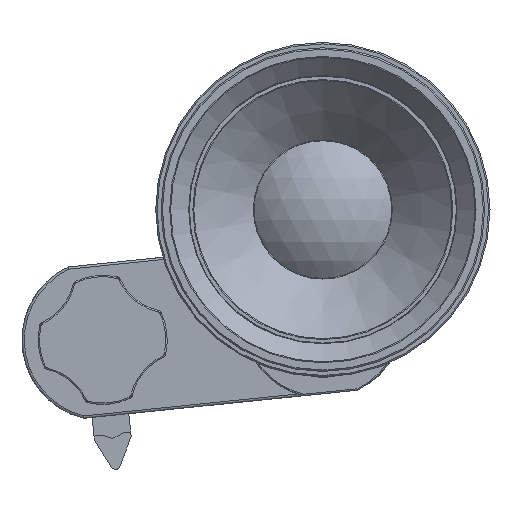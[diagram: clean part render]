
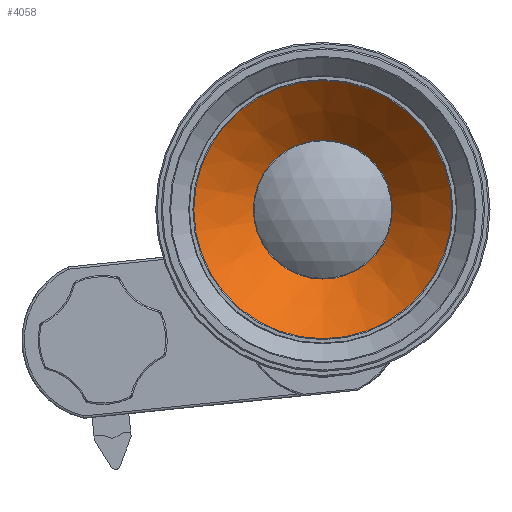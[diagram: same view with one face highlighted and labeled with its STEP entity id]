
A CAD part, front view. The second image highlights one B-rep face of the part: STEP entity #4058.
In plain terms, the highlighted conical face has half-angle 45.159 degrees and reference radius 28.072 mm.
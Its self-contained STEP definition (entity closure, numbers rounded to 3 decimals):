
#490 = CIRCLE ( 'NONE', #23303, 27.984 ) ;
#1286 = DIRECTION ( 'NONE',  ( 0., -1., 0. ) ) ;
#4058 = ADVANCED_FACE ( 'NONE', ( #31432, #26712 ), #18366, .F. ) ;
#6163 = DIRECTION ( 'NONE',  ( 0., 0., 1. ) ) ;
#6251 = EDGE_LOOP ( 'NONE', ( #9055 ) ) ;
#9055 = ORIENTED_EDGE ( 'NONE', *, *, #17434, .F. ) ;
#9833 = DIRECTION ( 'NONE',  ( 0., 0., -1. ) ) ;
#11166 = VERTEX_POINT ( 'NONE', #18309 ) ;
#12148 = AXIS2_PLACEMENT_3D ( 'NONE', #19411, #21856, #9833 ) ;
#12459 = CIRCLE ( 'NONE', #19735, 15.069 ) ;
#17434 = EDGE_CURVE ( 'NONE', #11166, #11166, #12459, .T. ) ;
#18305 = CARTESIAN_POINT ( 'NONE',  ( 0., 17.932, 0. ) ) ;
#18309 = CARTESIAN_POINT ( 'NONE',  ( 0., 17.932, -15.069 ) ) ;
#18366 = CONICAL_SURFACE ( 'NONE', #12148, 28.072, 0.788 ) ;
#19411 = CARTESIAN_POINT ( 'NONE',  ( 0., 5., 0. ) ) ;
#19735 = AXIS2_PLACEMENT_3D ( 'NONE', #18305, #23357, #26105 ) ;
#20945 = CARTESIAN_POINT ( 'NONE',  ( 0., 5.087, 0. ) ) ;
#21418 = ORIENTED_EDGE ( 'NONE', *, *, #26492, .T. ) ;
#21856 = DIRECTION ( 'NONE',  ( 0., -1., 0. ) ) ;
#23303 = AXIS2_PLACEMENT_3D ( 'NONE', #20945, #1286, #6163 ) ;
#23357 = DIRECTION ( 'NONE',  ( 0., -1., 0. ) ) ;
#25792 = CARTESIAN_POINT ( 'NONE',  ( 0., 5.087, 27.984 ) ) ;
#25954 = VERTEX_POINT ( 'NONE', #25792 ) ;
#26105 = DIRECTION ( 'NONE',  ( 0., 0., -1. ) ) ;
#26492 = EDGE_CURVE ( 'NONE', #25954, #25954, #490, .T. ) ;
#26712 = FACE_BOUND ( 'NONE', #6251, .T. ) ;
#27520 = EDGE_LOOP ( 'NONE', ( #21418 ) ) ;
#31432 = FACE_OUTER_BOUND ( 'NONE', #27520, .T. ) ;
